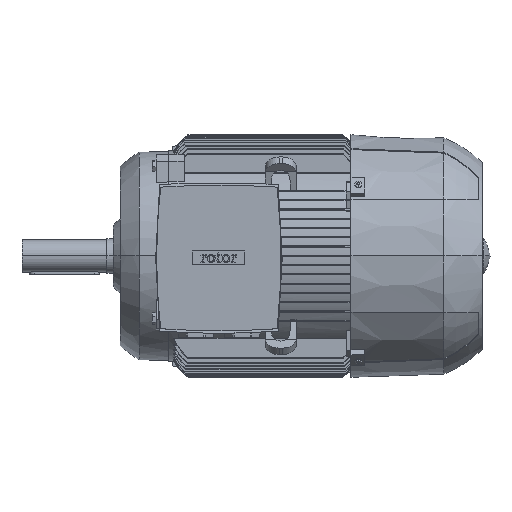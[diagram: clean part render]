
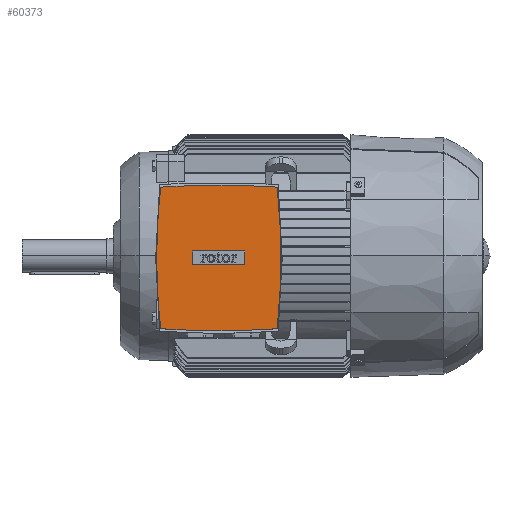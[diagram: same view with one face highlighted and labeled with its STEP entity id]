
A CAD part, top view. The second image highlights one B-rep face of the part: STEP entity #60373.
In plain terms, the highlighted planar face has unit normal (0, 0, 1).
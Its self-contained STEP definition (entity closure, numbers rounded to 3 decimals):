
#247 = ORIENTED_EDGE ( 'NONE', *, *, #5191, .F. ) ;
#615 = DIRECTION ( 'NONE',  ( 0., 0., -1. ) ) ;
#984 = AXIS2_PLACEMENT_3D ( 'NONE', #65761, #34389, #2973 ) ;
#2193 = VECTOR ( 'NONE', #55955, 1000. ) ;
#2973 = DIRECTION ( 'NONE',  ( 1., 0., 0. ) ) ;
#4949 = VERTEX_POINT ( 'NONE', #11953 ) ;
#5137 = CARTESIAN_POINT ( 'NONE',  ( 65., -928.2, 265. ) ) ;
#5176 = AXIS2_PLACEMENT_3D ( 'NONE', #39215, #7823, #44430 ) ;
#5191 = EDGE_CURVE ( 'NONE', #27087, #53529, #18989, .T. ) ;
#5766 = LINE ( 'NONE', #59938, #45869 ) ;
#7823 = DIRECTION ( 'NONE',  ( 0., 0., -1. ) ) ;
#7963 = CARTESIAN_POINT ( 'NONE',  ( 65., -12.05, 265. ) ) ;
#10401 = DIRECTION ( 'NONE',  ( -1., 0., 0. ) ) ;
#10918 = ORIENTED_EDGE ( 'NONE', *, *, #41114, .F. ) ;
#11953 = CARTESIAN_POINT ( 'NONE',  ( 98.75, 6.05, 265. ) ) ;
#13278 = VECTOR ( 'NONE', #65464, 1000. ) ;
#13764 = CIRCLE ( 'NONE', #5176, 1019.7 ) ;
#13766 = EDGE_CURVE ( 'NONE', #53529, #43709, #45995, .T. ) ;
#14724 = CARTESIAN_POINT ( 'NONE',  ( -10.455, -94.704, 265. ) ) ;
#16841 = CARTESIAN_POINT ( 'NONE',  ( 140.455, 88.704, 265. ) ) ;
#18989 = CIRCLE ( 'NONE', #27073, 836. ) ;
#19342 = CARTESIAN_POINT ( 'NONE',  ( 98.75, -3., 265. ) ) ;
#20592 = FACE_OUTER_BOUND ( 'NONE', #35426, .T. ) ;
#23357 = DIRECTION ( 'NONE',  ( 0., 0., -1. ) ) ;
#25629 = ORIENTED_EDGE ( 'NONE', *, *, #48631, .T. ) ;
#26881 = ORIENTED_EDGE ( 'NONE', *, *, #43934, .T. ) ;
#27073 = AXIS2_PLACEMENT_3D ( 'NONE', #54722, #23357, #59993 ) ;
#27087 = VERTEX_POINT ( 'NONE', #40654 ) ;
#27349 = DIRECTION ( 'NONE',  ( 0., 0., -1. ) ) ;
#27693 = ORIENTED_EDGE ( 'NONE', *, *, #54107, .F. ) ;
#28594 = DIRECTION ( 'NONE',  ( 1., 0., 0. ) ) ;
#30449 = VECTOR ( 'NONE', #66799, 1000. ) ;
#31063 = AXIS2_PLACEMENT_3D ( 'NONE', #5137, #41796, #10401 ) ;
#31133 = CARTESIAN_POINT ( 'NONE',  ( -10.455, 88.704, 265. ) ) ;
#31899 = VERTEX_POINT ( 'NONE', #14724 ) ;
#31988 = CARTESIAN_POINT ( 'NONE',  ( -690.5, -3., 265. ) ) ;
#32131 = LINE ( 'NONE', #61491, #30449 ) ;
#34389 = DIRECTION ( 'NONE',  ( 0., 0., 1. ) ) ;
#35426 = EDGE_LOOP ( 'NONE', ( #64973, #247, #10918, #48384, #27693 ) ) ;
#37220 = DIRECTION ( 'NONE',  ( -1., 0., 0. ) ) ;
#37249 = VERTEX_POINT ( 'NONE', #44427 ) ;
#38193 = CARTESIAN_POINT ( 'NONE',  ( 140.455, -94.704, 265. ) ) ;
#39215 = CARTESIAN_POINT ( 'NONE',  ( 65., 922.2, 265. ) ) ;
#39402 = PLANE ( 'NONE',  #984 ) ;
#40654 = CARTESIAN_POINT ( 'NONE',  ( -15.5, -3., 265. ) ) ;
#41114 = EDGE_CURVE ( 'NONE', #31899, #27087, #41432, .T. ) ;
#41432 = CIRCLE ( 'NONE', #50983, 836. ) ;
#41796 = DIRECTION ( 'NONE',  ( 0., 0., -1. ) ) ;
#42777 = LINE ( 'NONE', #7963, #13278 ) ;
#42972 = EDGE_CURVE ( 'NONE', #46988, #4949, #5766, .T. ) ;
#43249 = LINE ( 'NONE', #19342, #2193 ) ;
#43709 = VERTEX_POINT ( 'NONE', #16841 ) ;
#43934 = EDGE_CURVE ( 'NONE', #4949, #59959, #43249, .T. ) ;
#44427 = CARTESIAN_POINT ( 'NONE',  ( 31.25, -12.05, 265. ) ) ;
#44430 = DIRECTION ( 'NONE',  ( -1., 0., 0. ) ) ;
#45869 = VECTOR ( 'NONE', #28594, 1000. ) ;
#45995 = CIRCLE ( 'NONE', #31063, 1019.7 ) ;
#46988 = VERTEX_POINT ( 'NONE', #64943 ) ;
#47110 = CIRCLE ( 'NONE', #49585, 836. ) ;
#48384 = ORIENTED_EDGE ( 'NONE', *, *, #63679, .F. ) ;
#48631 = EDGE_CURVE ( 'NONE', #37249, #46988, #32131, .T. ) ;
#49585 = AXIS2_PLACEMENT_3D ( 'NONE', #31988, #615, #37220 ) ;
#50983 = AXIS2_PLACEMENT_3D ( 'NONE', #58652, #27349, #63960 ) ;
#51103 = ORIENTED_EDGE ( 'NONE', *, *, #66891, .T. ) ;
#52997 = ORIENTED_EDGE ( 'NONE', *, *, #42972, .T. ) ;
#53495 = EDGE_LOOP ( 'NONE', ( #52997, #26881, #51103, #25629 ) ) ;
#53529 = VERTEX_POINT ( 'NONE', #31133 ) ;
#54107 = EDGE_CURVE ( 'NONE', #43709, #60837, #47110, .T. ) ;
#54722 = CARTESIAN_POINT ( 'NONE',  ( 820.5, -3., 265. ) ) ;
#55699 = CARTESIAN_POINT ( 'NONE',  ( 98.75, -12.05, 265. ) ) ;
#55955 = DIRECTION ( 'NONE',  ( 0., -1., 0. ) ) ;
#58652 = CARTESIAN_POINT ( 'NONE',  ( 820.5, -3., 265. ) ) ;
#59938 = CARTESIAN_POINT ( 'NONE',  ( 65., 6.05, 265. ) ) ;
#59959 = VERTEX_POINT ( 'NONE', #55699 ) ;
#59993 = DIRECTION ( 'NONE',  ( -1., 0., 0. ) ) ;
#60373 = ADVANCED_FACE ( 'NONE', ( #20592, #60698 ), #39402, .T. ) ;
#60698 = FACE_BOUND ( 'NONE', #53495, .T. ) ;
#60837 = VERTEX_POINT ( 'NONE', #38193 ) ;
#61491 = CARTESIAN_POINT ( 'NONE',  ( 31.25, -3., 265. ) ) ;
#63679 = EDGE_CURVE ( 'NONE', #60837, #31899, #13764, .T. ) ;
#63960 = DIRECTION ( 'NONE',  ( -1., 0., 0. ) ) ;
#64943 = CARTESIAN_POINT ( 'NONE',  ( 31.25, 6.05, 265. ) ) ;
#64973 = ORIENTED_EDGE ( 'NONE', *, *, #13766, .F. ) ;
#65464 = DIRECTION ( 'NONE',  ( -1., 0., 0. ) ) ;
#65761 = CARTESIAN_POINT ( 'NONE',  ( 65., -3., 265. ) ) ;
#66799 = DIRECTION ( 'NONE',  ( 0., 1., 0. ) ) ;
#66891 = EDGE_CURVE ( 'NONE', #59959, #37249, #42777, .T. ) ;
